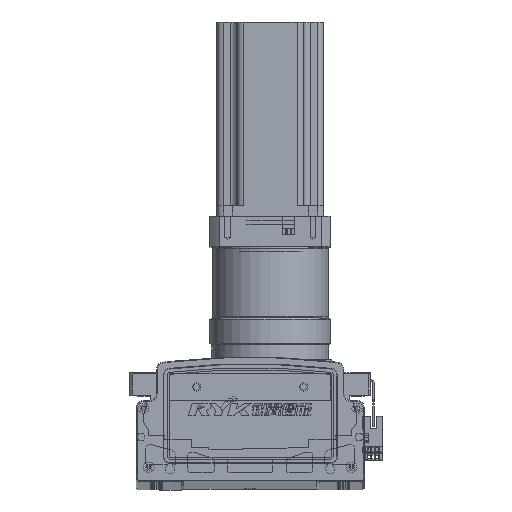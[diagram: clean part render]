
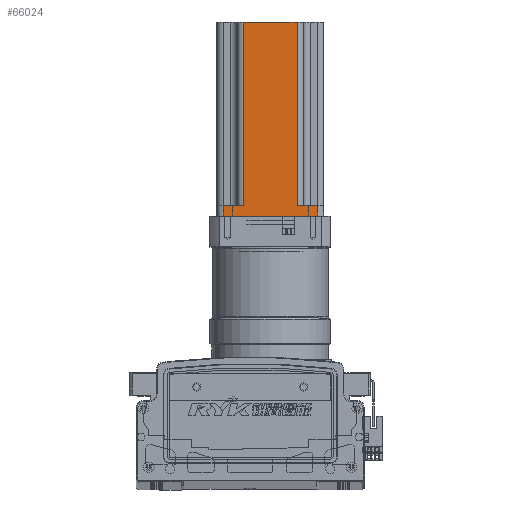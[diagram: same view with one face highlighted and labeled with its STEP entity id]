
A CAD part, top view. The second image highlights one B-rep face of the part: STEP entity #66024.
In plain terms, the highlighted planar face has unit normal (0, 0, 1) as drawn and (0, -1, 0) by its records, which use the part's own axes.
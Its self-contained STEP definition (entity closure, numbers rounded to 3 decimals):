
#7102 = CARTESIAN_POINT ( 'NONE',  ( -87.587, -40.37, 0. ) ) ;
#7177 = DIRECTION ( 'NONE',  ( 1., 0., 0. ) ) ;
#7185 = DIRECTION ( 'NONE',  ( 1., 0., 0. ) ) ;
#7189 = DIRECTION ( 'NONE',  ( 0., 0., -1. ) ) ;
#7198 = DIRECTION ( 'NONE',  ( 0., 0., 1. ) ) ;
#7209 = CARTESIAN_POINT ( 'NONE',  ( -7.587, -40.37, 8. ) ) ;
#7217 = CARTESIAN_POINT ( 'NONE',  ( -67.587, -40.37, 145. ) ) ;
#7221 = CARTESIAN_POINT ( 'NONE',  ( -12.587, -40.37, 145. ) ) ;
#7248 = CARTESIAN_POINT ( 'NONE',  ( -87.587, -40.37, 145. ) ) ;
#7264 = DIRECTION ( 'NONE',  ( 0., 0., -1. ) ) ;
#7265 = DIRECTION ( 'NONE',  ( 1., 0., 0. ) ) ;
#7271 = CARTESIAN_POINT ( 'NONE',  ( -82.587, -40.37, 145. ) ) ;
#7281 = CARTESIAN_POINT ( 'NONE',  ( -87.587, -40.37, 8. ) ) ;
#7297 = DIRECTION ( 'NONE',  ( 1., 0., 0. ) ) ;
#7426 = CARTESIAN_POINT ( 'NONE',  ( -27.587, -40.37, 145. ) ) ;
#7439 = DIRECTION ( 'NONE',  ( 0., 0., 1. ) ) ;
#7991 = DIRECTION ( 'NONE',  ( -1., 0., 0. ) ) ;
#8015 = PLANE ( 'NONE',  #92440 ) ;
#8022 = CARTESIAN_POINT ( 'NONE',  ( -87.587, -40.37, 145. ) ) ;
#8025 = DIRECTION ( 'NONE',  ( 0., 1., 0. ) ) ;
#24865 = FACE_OUTER_BOUND ( 'NONE', #34686, .T. ) ;
#34686 = EDGE_LOOP ( 'NONE', ( #46886, #46838, #46851, #46932, #46890, #46866, #46891, #46871 ) ) ;
#40669 = LINE ( 'NONE', #7102, #40737 ) ;
#40687 = LINE ( 'NONE', #7217, #40769 ) ;
#40697 = VECTOR ( 'NONE', #7198, 1000. ) ;
#40733 = LINE ( 'NONE', #7209, #40775 ) ;
#40737 = VECTOR ( 'NONE', #7177, 1000. ) ;
#40769 = VECTOR ( 'NONE', #7189, 1000. ) ;
#40773 = LINE ( 'NONE', #7221, #40697 ) ;
#40775 = VECTOR ( 'NONE', #7185, 1000. ) ;
#40799 = VECTOR ( 'NONE', #7265, 1000. ) ;
#40827 = LINE ( 'NONE', #7248, #40799 ) ;
#40853 = VECTOR ( 'NONE', #7297, 1000. ) ;
#40881 = LINE ( 'NONE', #7281, #40853 ) ;
#40913 = LINE ( 'NONE', #7271, #40916 ) ;
#40916 = VECTOR ( 'NONE', #7264, 1000. ) ;
#40966 = LINE ( 'NONE', #7426, #41074 ) ;
#41074 = VECTOR ( 'NONE', #7439, 1000. ) ;
#46838 = ORIENTED_EDGE ( 'NONE', *, *, #59748, .T. ) ;
#46851 = ORIENTED_EDGE ( 'NONE', *, *, #59608, .T. ) ;
#46866 = ORIENTED_EDGE ( 'NONE', *, *, #59943, .T. ) ;
#46871 = ORIENTED_EDGE ( 'NONE', *, *, #59683, .T. ) ;
#46886 = ORIENTED_EDGE ( 'NONE', *, *, #59788, .F. ) ;
#46890 = ORIENTED_EDGE ( 'NONE', *, *, #59706, .F. ) ;
#46891 = ORIENTED_EDGE ( 'NONE', *, *, #59751, .F. ) ;
#46932 = ORIENTED_EDGE ( 'NONE', *, *, #59709, .T. ) ;
#59608 = EDGE_CURVE ( 'NONE', #107827, #107883, #40669, .T. ) ;
#59683 = EDGE_CURVE ( 'NONE', #107928, #107930, #40687, .T. ) ;
#59706 = EDGE_CURVE ( 'NONE', #107942, #107840, #40733, .T. ) ;
#59709 = EDGE_CURVE ( 'NONE', #107883, #107840, #40773, .T. ) ;
#59748 = EDGE_CURVE ( 'NONE', #107925, #107827, #40913, .T. ) ;
#59751 = EDGE_CURVE ( 'NONE', #107928, #108056, #40827, .T. ) ;
#59788 = EDGE_CURVE ( 'NONE', #107925, #107930, #40881, .T. ) ;
#59943 = EDGE_CURVE ( 'NONE', #107942, #108056, #40966, .T. ) ;
#66024 = ADVANCED_FACE ( 'NONE', ( #24865 ), #8015, .F. ) ;
#77162 = CARTESIAN_POINT ( 'NONE',  ( -12.587, -40.37, 8. ) ) ;
#77206 = CARTESIAN_POINT ( 'NONE',  ( -82.587, -40.37, 0. ) ) ;
#77293 = CARTESIAN_POINT ( 'NONE',  ( -12.587, -40.37, 0. ) ) ;
#77430 = CARTESIAN_POINT ( 'NONE',  ( -67.587, -40.37, 8. ) ) ;
#77434 = CARTESIAN_POINT ( 'NONE',  ( -67.587, -40.37, 145. ) ) ;
#77473 = CARTESIAN_POINT ( 'NONE',  ( -82.587, -40.37, 8. ) ) ;
#77485 = CARTESIAN_POINT ( 'NONE',  ( -27.587, -40.37, 8. ) ) ;
#77765 = CARTESIAN_POINT ( 'NONE',  ( -27.587, -40.37, 145. ) ) ;
#92440 = AXIS2_PLACEMENT_3D ( 'NONE', #8022, #8025, #7991 ) ;
#107827 = VERTEX_POINT ( 'NONE', #77206 ) ;
#107840 = VERTEX_POINT ( 'NONE', #77162 ) ;
#107883 = VERTEX_POINT ( 'NONE', #77293 ) ;
#107925 = VERTEX_POINT ( 'NONE', #77473 ) ;
#107928 = VERTEX_POINT ( 'NONE', #77434 ) ;
#107930 = VERTEX_POINT ( 'NONE', #77430 ) ;
#107942 = VERTEX_POINT ( 'NONE', #77485 ) ;
#108056 = VERTEX_POINT ( 'NONE', #77765 ) ;
